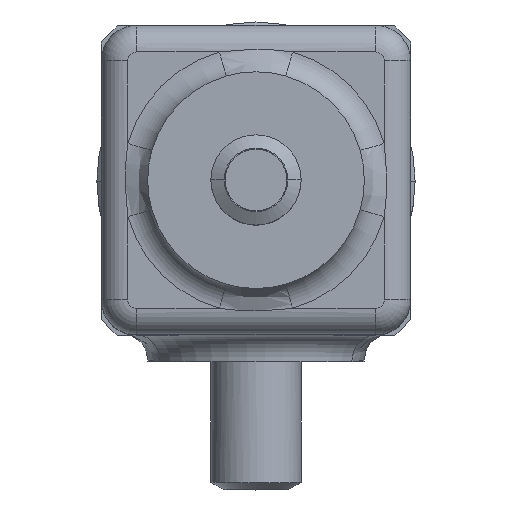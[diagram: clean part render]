
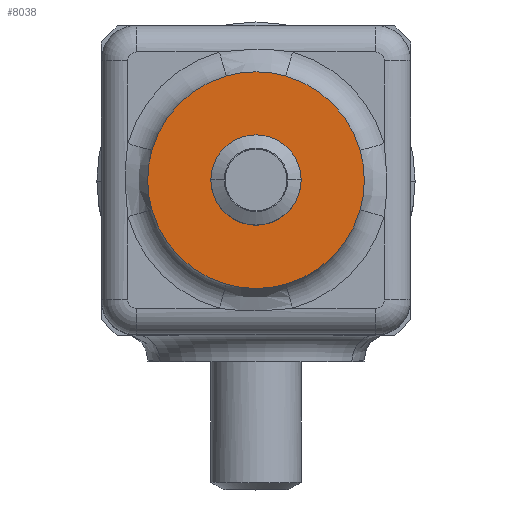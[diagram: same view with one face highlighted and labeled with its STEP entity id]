
A CAD part, top view. The second image highlights one B-rep face of the part: STEP entity #8038.
In plain terms, the highlighted planar face has unit normal (0, 0, 1).
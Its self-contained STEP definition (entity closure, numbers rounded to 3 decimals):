
#360 = CARTESIAN_POINT ( 'NONE',  ( 3.36, -11.78, 35. ) ) ;
#417 = FACE_BOUND ( 'NONE', #8015, .T. ) ;
#418 = FACE_OUTER_BOUND ( 'NONE', #3162, .T. ) ;
#419 = PLANE ( 'NONE',  #420 ) ;
#420 = AXIS2_PLACEMENT_3D ( 'NONE', #421, #423, #424 ) ;
#421 = CARTESIAN_POINT ( 'NONE',  ( 0., 0., 35. ) ) ;
#423 = DIRECTION ( 'NONE',  ( 0., 0., 1. ) ) ;
#424 = DIRECTION ( 'NONE',  ( 1., 0., 0. ) ) ;
#613 = EDGE_CURVE ( 'NONE', #4515, #632, #8727, .T. ) ;
#632 = VERTEX_POINT ( 'NONE', #9678 ) ;
#936 = ORIENTED_EDGE ( 'NONE', *, *, #937, .F. ) ;
#937 = EDGE_CURVE ( 'NONE', #7922, #7948, #9833, .T. ) ;
#2135 = CARTESIAN_POINT ( 'NONE',  ( 11.78, -3.36, 35. ) ) ;
#2985 = ORIENTED_EDGE ( 'NONE', *, *, #7301, .T. ) ;
#3162 = EDGE_LOOP ( 'NONE', ( #5098, #4971, #5010, #4141, #5139, #3696, #2985, #10271 ) ) ;
#3465 = CARTESIAN_POINT ( 'NONE',  ( -11.78, -3.36, 35. ) ) ;
#3476 = CIRCLE ( 'NONE', #3477, 12.25 ) ;
#3477 = AXIS2_PLACEMENT_3D ( 'NONE', #3478, #3479, #3481 ) ;
#3478 = CARTESIAN_POINT ( 'NONE',  ( 0., 0., 35. ) ) ;
#3479 = DIRECTION ( 'NONE',  ( 0., 0., 1. ) ) ;
#3481 = DIRECTION ( 'NONE',  ( 1., 0., 0. ) ) ;
#3588 = CIRCLE ( 'NONE', #3589, 12.25 ) ;
#3589 = AXIS2_PLACEMENT_3D ( 'NONE', #3590, #3591, #3592 ) ;
#3590 = CARTESIAN_POINT ( 'NONE',  ( 0., 0., 35. ) ) ;
#3591 = DIRECTION ( 'NONE',  ( 0., 0., 1. ) ) ;
#3592 = DIRECTION ( 'NONE',  ( 1., 0., 0. ) ) ;
#3696 = ORIENTED_EDGE ( 'NONE', *, *, #8022, .T. ) ;
#4141 = ORIENTED_EDGE ( 'NONE', *, *, #7290, .T. ) ;
#4151 = CIRCLE ( 'NONE', #4152, 12.25 ) ;
#4152 = AXIS2_PLACEMENT_3D ( 'NONE', #4153, #4154, #4155 ) ;
#4153 = CARTESIAN_POINT ( 'NONE',  ( 0., 0., 35. ) ) ;
#4154 = DIRECTION ( 'NONE',  ( 0., 0., 1. ) ) ;
#4155 = DIRECTION ( 'NONE',  ( 1., 0., 0. ) ) ;
#4185 = CIRCLE ( 'NONE', #4186, 12.25 ) ;
#4186 = AXIS2_PLACEMENT_3D ( 'NONE', #4187, #4188, #4189 ) ;
#4187 = CARTESIAN_POINT ( 'NONE',  ( 0., 0., 35. ) ) ;
#4188 = DIRECTION ( 'NONE',  ( 0., 0., 1. ) ) ;
#4189 = DIRECTION ( 'NONE',  ( 1., 0., 0. ) ) ;
#4262 = EDGE_CURVE ( 'NONE', #632, #7862, #4151, .T. ) ;
#4515 = VERTEX_POINT ( 'NONE', #4543 ) ;
#4543 = CARTESIAN_POINT ( 'NONE',  ( 3.36, 11.78, 35. ) ) ;
#4623 = CARTESIAN_POINT ( 'NONE',  ( 11.78, 3.36, 35. ) ) ;
#4666 = VERTEX_POINT ( 'NONE', #4623 ) ;
#4712 = CIRCLE ( 'NONE', #4713, 12.25 ) ;
#4713 = AXIS2_PLACEMENT_3D ( 'NONE', #4714, #4715, #4716 ) ;
#4714 = CARTESIAN_POINT ( 'NONE',  ( 0., 0., 35. ) ) ;
#4715 = DIRECTION ( 'NONE',  ( 0., 0., 1. ) ) ;
#4716 = DIRECTION ( 'NONE',  ( 1., 0., 0. ) ) ;
#4725 = CARTESIAN_POINT ( 'NONE',  ( -11.78, 3.36, 35. ) ) ;
#4808 = EDGE_CURVE ( 'NONE', #4666, #4515, #4712, .T. ) ;
#4971 = ORIENTED_EDGE ( 'NONE', *, *, #613, .T. ) ;
#5010 = ORIENTED_EDGE ( 'NONE', *, *, #4262, .T. ) ;
#5098 = ORIENTED_EDGE ( 'NONE', *, *, #4808, .T. ) ;
#5139 = ORIENTED_EDGE ( 'NONE', *, *, #8003, .T. ) ;
#5961 = CARTESIAN_POINT ( 'NONE',  ( -5.1, 0., 35. ) ) ;
#6096 = CARTESIAN_POINT ( 'NONE',  ( 5.1, 0., 35. ) ) ;
#6523 = VERTEX_POINT ( 'NONE', #360 ) ;
#6714 = CIRCLE ( 'NONE', #6715, 5.1 ) ;
#6715 = AXIS2_PLACEMENT_3D ( 'NONE', #6716, #6717, #6718 ) ;
#6716 = CARTESIAN_POINT ( 'NONE',  ( 0., 0., 35. ) ) ;
#6717 = DIRECTION ( 'NONE',  ( 0., 0., 1. ) ) ;
#6718 = DIRECTION ( 'NONE',  ( 1., 0., 0. ) ) ;
#6774 = CARTESIAN_POINT ( 'NONE',  ( -3.36, -11.78, 35. ) ) ;
#6846 = CIRCLE ( 'NONE', #6847, 12.25 ) ;
#6847 = AXIS2_PLACEMENT_3D ( 'NONE', #6848, #6849, #6850 ) ;
#6848 = CARTESIAN_POINT ( 'NONE',  ( 0., 0., 35. ) ) ;
#6849 = DIRECTION ( 'NONE',  ( 0., 0., 1. ) ) ;
#6850 = DIRECTION ( 'NONE',  ( 1., 0., 0. ) ) ;
#6911 = CIRCLE ( 'NONE', #6912, 12.25 ) ;
#6912 = AXIS2_PLACEMENT_3D ( 'NONE', #6913, #6914, #6915 ) ;
#6913 = CARTESIAN_POINT ( 'NONE',  ( 0., 0., 35. ) ) ;
#6914 = DIRECTION ( 'NONE',  ( 0., 0., 1. ) ) ;
#6915 = DIRECTION ( 'NONE',  ( 1., 0., 0. ) ) ;
#7199 = VERTEX_POINT ( 'NONE', #2135 ) ;
#7290 = EDGE_CURVE ( 'NONE', #7862, #7735, #3476, .T. ) ;
#7301 = EDGE_CURVE ( 'NONE', #6523, #7199, #3588, .T. ) ;
#7735 = VERTEX_POINT ( 'NONE', #3465 ) ;
#7862 = VERTEX_POINT ( 'NONE', #4725 ) ;
#7922 = VERTEX_POINT ( 'NONE', #5961 ) ;
#7948 = VERTEX_POINT ( 'NONE', #6096 ) ;
#7970 = EDGE_CURVE ( 'NONE', #7948, #7922, #6714, .T. ) ;
#7988 = VERTEX_POINT ( 'NONE', #6774 ) ;
#8003 = EDGE_CURVE ( 'NONE', #7735, #7988, #6846, .T. ) ;
#8015 = EDGE_LOOP ( 'NONE', ( #9807, #936 ) ) ;
#8022 = EDGE_CURVE ( 'NONE', #7988, #6523, #6911, .T. ) ;
#8038 = ADVANCED_FACE ( 'NONE', ( #417, #418 ), #419, .T. ) ;
#8727 = CIRCLE ( 'NONE', #8728, 12.25 ) ;
#8728 = AXIS2_PLACEMENT_3D ( 'NONE', #8729, #8730, #8731 ) ;
#8729 = CARTESIAN_POINT ( 'NONE',  ( 0., 0., 35. ) ) ;
#8730 = DIRECTION ( 'NONE',  ( 0., 0., 1. ) ) ;
#8731 = DIRECTION ( 'NONE',  ( 1., 0., 0. ) ) ;
#9678 = CARTESIAN_POINT ( 'NONE',  ( -3.36, 11.78, 35. ) ) ;
#9807 = ORIENTED_EDGE ( 'NONE', *, *, #7970, .F. ) ;
#9833 = CIRCLE ( 'NONE', #9834, 5.1 ) ;
#9834 = AXIS2_PLACEMENT_3D ( 'NONE', #9835, #9836, #9837 ) ;
#9835 = CARTESIAN_POINT ( 'NONE',  ( 0., 0., 35. ) ) ;
#9836 = DIRECTION ( 'NONE',  ( 0., 0., 1. ) ) ;
#9837 = DIRECTION ( 'NONE',  ( 1., 0., 0. ) ) ;
#10150 = EDGE_CURVE ( 'NONE', #7199, #4666, #4185, .T. ) ;
#10271 = ORIENTED_EDGE ( 'NONE', *, *, #10150, .T. ) ;
